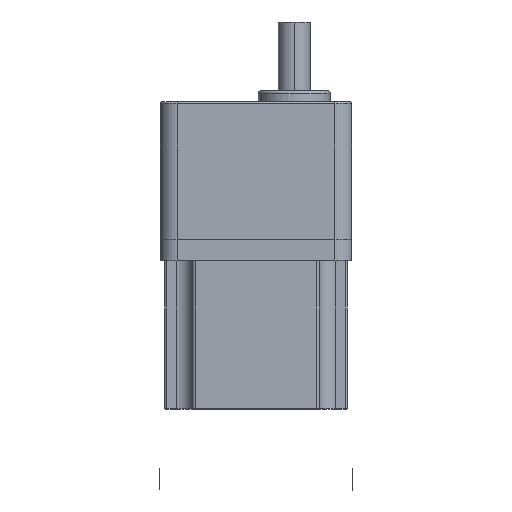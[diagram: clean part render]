
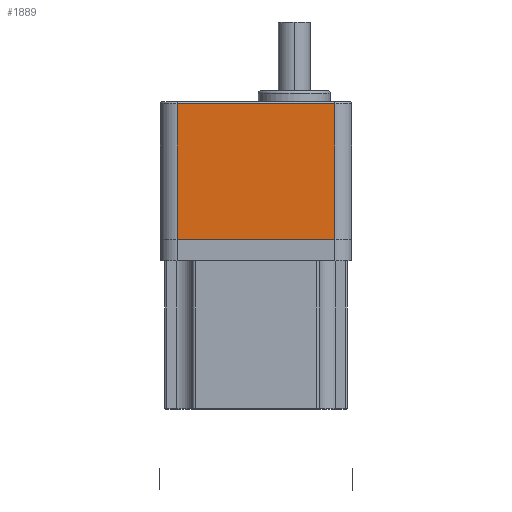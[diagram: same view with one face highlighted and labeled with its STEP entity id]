
A CAD part, front view. The second image highlights one B-rep face of the part: STEP entity #1889.
In plain terms, the highlighted planar face has unit normal (0, 1, 0).
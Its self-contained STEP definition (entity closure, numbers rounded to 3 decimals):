
#42 = CARTESIAN_POINT ( 'NONE',  ( 55.365, -56.139, 156.75 ) ) ;
#597 = EDGE_CURVE ( 'NONE', #4169, #2167, #674, .T. ) ;
#674 = LINE ( 'NONE', #42, #1250 ) ;
#1100 = ORIENTED_EDGE ( 'NONE', *, *, #3281, .T. ) ;
#1233 = VECTOR ( 'NONE', #2973, 1000. ) ;
#1241 = AXIS2_PLACEMENT_3D ( 'NONE', #3362, #3350, #3345 ) ;
#1250 = VECTOR ( 'NONE', #4623, 1000. ) ;
#1502 = LINE ( 'NONE', #1956, #3373 ) ;
#1515 = VECTOR ( 'NONE', #4592, 1000. ) ;
#1596 = EDGE_CURVE ( 'NONE', #4423, #4169, #2613, .T. ) ;
#1815 = CARTESIAN_POINT ( 'NONE',  ( 55.365, -56.139, 220.75 ) ) ;
#1889 = ADVANCED_FACE ( 'NONE', ( #4434 ), #3539, .T. ) ;
#1896 = DIRECTION ( 'NONE',  ( 1., 0., 0. ) ) ;
#1956 = CARTESIAN_POINT ( 'NONE',  ( 55.365, -56.139, 220.75 ) ) ;
#2085 = CARTESIAN_POINT ( 'NONE',  ( -18.635, -56.139, 156.75 ) ) ;
#2136 = CARTESIAN_POINT ( 'NONE',  ( -18.635, -56.139, 220.75 ) ) ;
#2167 = VERTEX_POINT ( 'NONE', #2085 ) ;
#2466 = ORIENTED_EDGE ( 'NONE', *, *, #3059, .T. ) ;
#2613 = LINE ( 'NONE', #4566, #1515 ) ;
#2836 = CARTESIAN_POINT ( 'NONE',  ( 55.365, -56.139, 156.75 ) ) ;
#2888 = ORIENTED_EDGE ( 'NONE', *, *, #597, .T. ) ;
#2950 = CARTESIAN_POINT ( 'NONE',  ( -18.635, -56.139, 156.75 ) ) ;
#2973 = DIRECTION ( 'NONE',  ( 0., 0., 1. ) ) ;
#3059 = EDGE_CURVE ( 'NONE', #2167, #4354, #3212, .T. ) ;
#3212 = LINE ( 'NONE', #2950, #1233 ) ;
#3281 = EDGE_CURVE ( 'NONE', #4354, #4423, #1502, .T. ) ;
#3345 = DIRECTION ( 'NONE',  ( -1., 0., 0. ) ) ;
#3350 = DIRECTION ( 'NONE',  ( 0., 1., 0. ) ) ;
#3362 = CARTESIAN_POINT ( 'NONE',  ( 55.365, -56.139, 156.75 ) ) ;
#3373 = VECTOR ( 'NONE', #1896, 1000. ) ;
#3537 = ORIENTED_EDGE ( 'NONE', *, *, #1596, .T. ) ;
#3539 = PLANE ( 'NONE',  #1241 ) ;
#4169 = VERTEX_POINT ( 'NONE', #2836 ) ;
#4354 = VERTEX_POINT ( 'NONE', #2136 ) ;
#4423 = VERTEX_POINT ( 'NONE', #1815 ) ;
#4434 = FACE_OUTER_BOUND ( 'NONE', #4581, .T. ) ;
#4566 = CARTESIAN_POINT ( 'NONE',  ( 55.365, -56.139, 156.75 ) ) ;
#4581 = EDGE_LOOP ( 'NONE', ( #2888, #2466, #1100, #3537 ) ) ;
#4592 = DIRECTION ( 'NONE',  ( 0., 0., -1. ) ) ;
#4623 = DIRECTION ( 'NONE',  ( -1., 0., 0. ) ) ;
